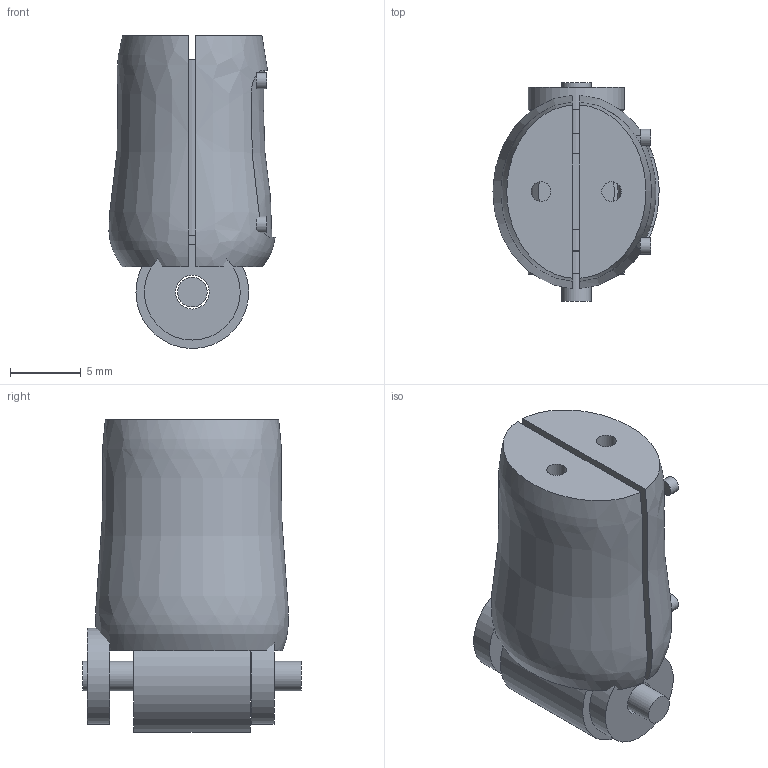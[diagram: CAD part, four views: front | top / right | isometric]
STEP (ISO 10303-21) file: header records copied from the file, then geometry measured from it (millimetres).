
FILE_DESCRIPTION(('FreeCAD Model'),'2;1');
FILE_NAME('Open CASCADE Shape Model','2026-10-05T09:22:59',('Author'),( ''),'Open CASCADE STEP processor 7.8','FreeCAD','Unknown');
FILE_SCHEMA(('AUTOMOTIVE_DESIGN { 1 0 10303 214 1 1 1 1 }'));
Length unit declared in the file: millimetre
Products named in the file (13): Export_pinky_intermediate; pinky_intermediateDorsalShell; pinky_intermediateFlexorShell; pinky_intermediateInsetPad; pinky_intermediateCore; pinky_intermediateHingeBarrel; pinky_intermediateCheek-1; pinky_intermediateCheek1; pinky_intermediatePin; pinky_intermediateScrew_-1_0.24; pinky_intermediateScrew_-1_0.75; pinky_intermediateScrew_1_0.24; pinky_intermediateScrew_1_0.75
Assembly tree (12 placements, depth 2):
  Export_pinky_intermediate
    pinky_intermediateDorsalShell
    pinky_intermediateFlexorShell
    pinky_intermediateInsetPad
    pinky_intermediateCore
    pinky_intermediateHingeBarrel
    pinky_intermediateCheek-1
    pinky_intermediateCheek1
    pinky_intermediatePin
    pinky_intermediateScrew_-1_0.24
    pinky_intermediateScrew_-1_0.75
    pinky_intermediateScrew_1_0.24
    pinky_intermediateScrew_1_0.75
Bounding box: 11.78 x 15.53 x 22.2 mm (x, y, z)
Volume: 2517.5 mm3; surface area: 2580.3 mm2
Topology: 12 solids, 12 shells, 83 faces, 160 edges, 98 vertices
Faces by surface type: plane 36, cylinder 36, sphere 8, bspline 3
Full cylindrical faces by diameter (mm): 0.464 x4, 1.16 x4, 1.4 x2, 2.1 x1, 2.4 x3, 5.4 x1, 6.8 x2, 8 x1
Entity records: 3352 total; most frequent: CARTESIAN_POINT 1512, DIRECTION 358, ORIENTED_EDGE 308, EDGE_CURVE 154, AXIS2_PLACEMENT_3D 153, FACE_BOUND 98, EDGE_LOOP 98, VERTEX_POINT 98
